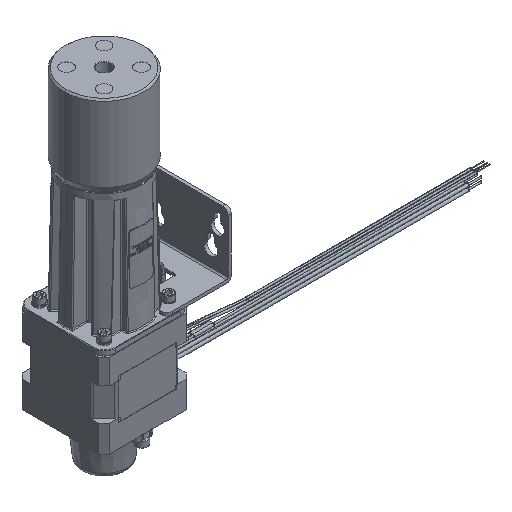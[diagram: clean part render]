
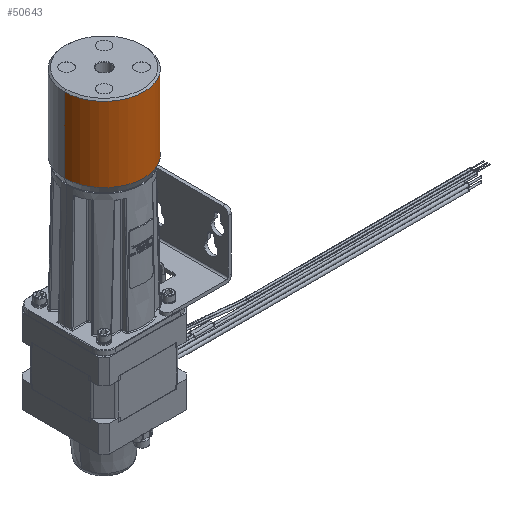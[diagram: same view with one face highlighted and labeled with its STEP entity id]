
A CAD part, isometric view. The second image highlights one B-rep face of the part: STEP entity #50643.
In plain terms, the highlighted cylindrical face has radius 19.05 mm (diameter 38.1 mm), a partial arc.
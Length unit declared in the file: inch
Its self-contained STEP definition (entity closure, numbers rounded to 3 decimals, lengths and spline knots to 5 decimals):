
#2057 = CARTESIAN_POINT ( 'NONE',  ( 0.75, 0., 2.527 ) ) ;
#2452 = VERTEX_POINT ( 'NONE', #2057 ) ;
#6465 = CARTESIAN_POINT ( 'NONE',  ( -0.75, 0., 3.937 ) ) ;
#8399 = CARTESIAN_POINT ( 'NONE',  ( 0.75, 0., 2.505 ) ) ;
#9352 = ORIENTED_EDGE ( 'NONE', *, *, #51017, .T. ) ;
#10015 = CARTESIAN_POINT ( 'NONE',  ( -0.75, 0., 2.527 ) ) ;
#10079 = DIRECTION ( 'NONE',  ( 0., 0., -1. ) ) ;
#13156 = CIRCLE ( 'NONE', #53611, 0.75 ) ;
#15034 = ORIENTED_EDGE ( 'NONE', *, *, #68864, .F. ) ;
#15333 = VERTEX_POINT ( 'NONE', #21812 ) ;
#19293 = VECTOR ( 'NONE', #69261, 39.37008 ) ;
#19978 = LINE ( 'NONE', #8399, #19293 ) ;
#21423 = DIRECTION ( 'NONE',  ( 0., 0., 1. ) ) ;
#21812 = CARTESIAN_POINT ( 'NONE',  ( 0.75, 0., 3.937 ) ) ;
#22087 = DIRECTION ( 'NONE',  ( 0., 0., -1. ) ) ;
#22442 = DIRECTION ( 'NONE',  ( 1., 0., 0. ) ) ;
#23997 = EDGE_CURVE ( 'NONE', #15333, #57063, #13156, .T. ) ;
#27063 = VECTOR ( 'NONE', #10079, 39.37008 ) ;
#29180 = CYLINDRICAL_SURFACE ( 'NONE', #47850, 0.75 ) ;
#29524 = CARTESIAN_POINT ( 'NONE',  ( 0., 0., 2.505 ) ) ;
#31475 = CARTESIAN_POINT ( 'NONE',  ( -0.75, 0., 2.505 ) ) ;
#36194 = LINE ( 'NONE', #31475, #27063 ) ;
#39284 = DIRECTION ( 'NONE',  ( 0., 0., -1. ) ) ;
#40515 = VERTEX_POINT ( 'NONE', #10015 ) ;
#43523 = DIRECTION ( 'NONE',  ( -1., 0., 0. ) ) ;
#44208 = CARTESIAN_POINT ( 'NONE',  ( 0., 0., 3.937 ) ) ;
#46857 = ORIENTED_EDGE ( 'NONE', *, *, #70616, .T. ) ;
#47850 = AXIS2_PLACEMENT_3D ( 'NONE', #29524, #39284, #51278 ) ;
#47957 = CIRCLE ( 'NONE', #66516, 0.75 ) ;
#50643 = ADVANCED_FACE ( 'NONE', ( #62191 ), #29180, .T. ) ;
#51017 = EDGE_CURVE ( 'NONE', #57063, #40515, #36194, .T. ) ;
#51278 = DIRECTION ( 'NONE',  ( -1., 0., 0. ) ) ;
#53611 = AXIS2_PLACEMENT_3D ( 'NONE', #44208, #22087, #22442 ) ;
#54408 = EDGE_LOOP ( 'NONE', ( #15034, #58067, #9352, #46857 ) ) ;
#57063 = VERTEX_POINT ( 'NONE', #6465 ) ;
#58067 = ORIENTED_EDGE ( 'NONE', *, *, #23997, .T. ) ;
#62191 = FACE_OUTER_BOUND ( 'NONE', #54408, .T. ) ;
#66516 = AXIS2_PLACEMENT_3D ( 'NONE', #71097, #21423, #43523 ) ;
#68864 = EDGE_CURVE ( 'NONE', #15333, #2452, #19978, .T. ) ;
#69261 = DIRECTION ( 'NONE',  ( 0., 0., -1. ) ) ;
#70616 = EDGE_CURVE ( 'NONE', #40515, #2452, #47957, .T. ) ;
#71097 = CARTESIAN_POINT ( 'NONE',  ( 0., 0., 2.527 ) ) ;
